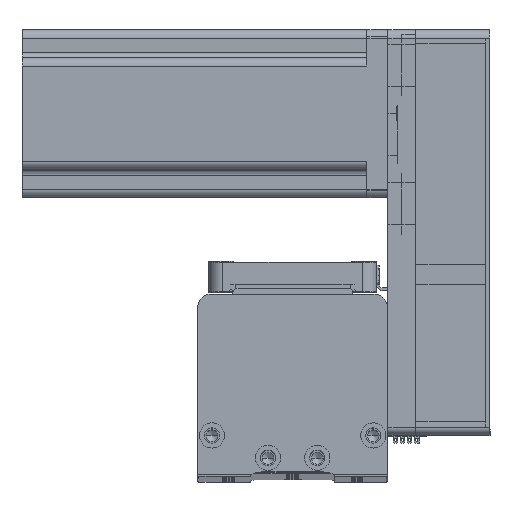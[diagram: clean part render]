
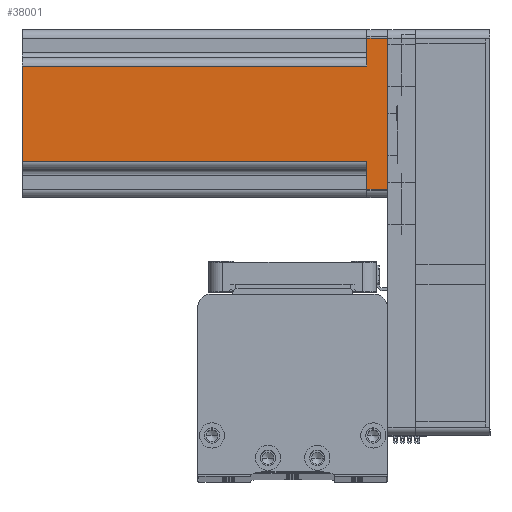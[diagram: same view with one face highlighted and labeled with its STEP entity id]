
A CAD part, top view. The second image highlights one B-rep face of the part: STEP entity #38001.
In plain terms, the highlighted planar face has unit normal (0, 0, 1) as drawn and (0, -1, 0) by its records, which use the part's own axes.
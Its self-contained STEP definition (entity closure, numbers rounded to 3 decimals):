
#73 = EDGE_CURVE ( 'NONE', #35060, #17257, #39954, .T. ) ;
#288 = PLANE ( 'NONE',  #36350 ) ;
#1294 = VERTEX_POINT ( 'NONE', #10641 ) ;
#1499 = EDGE_CURVE ( 'NONE', #16414, #35060, #51083, .T. ) ;
#2190 = ORIENTED_EDGE ( 'NONE', *, *, #51322, .T. ) ;
#2778 = LINE ( 'NONE', #8776, #22547 ) ;
#7180 = ORIENTED_EDGE ( 'NONE', *, *, #30184, .F. ) ;
#7612 = ORIENTED_EDGE ( 'NONE', *, *, #1499, .T. ) ;
#7753 = DIRECTION ( 'NONE',  ( 1., 0., 0. ) ) ;
#8776 = CARTESIAN_POINT ( 'NONE',  ( 30., -30., 0. ) ) ;
#9124 = ORIENTED_EDGE ( 'NONE', *, *, #45427, .F. ) ;
#9936 = CARTESIAN_POINT ( 'NONE',  ( 17., -30., 130.7 ) ) ;
#9953 = CARTESIAN_POINT ( 'NONE',  ( 27., -30., 130.7 ) ) ;
#10641 = CARTESIAN_POINT ( 'NONE',  ( -27., -30., 7.5 ) ) ;
#11873 = LINE ( 'NONE', #22447, #45975 ) ;
#12923 = DIRECTION ( 'NONE',  ( 0., 0., -1. ) ) ;
#14910 = LINE ( 'NONE', #9953, #45308 ) ;
#16394 = DIRECTION ( 'NONE',  ( 0., 1., 0. ) ) ;
#16414 = VERTEX_POINT ( 'NONE', #46296 ) ;
#16944 = LINE ( 'NONE', #50049, #37981 ) ;
#17201 = CARTESIAN_POINT ( 'NONE',  ( -27., -30., 0. ) ) ;
#17257 = VERTEX_POINT ( 'NONE', #9936 ) ;
#18935 = VECTOR ( 'NONE', #27030, 1000. ) ;
#19390 = VECTOR ( 'NONE', #29027, 1000. ) ;
#22279 = DIRECTION ( 'NONE',  ( 0., 0., -1. ) ) ;
#22447 = CARTESIAN_POINT ( 'NONE',  ( 30., -30., 130.7 ) ) ;
#22547 = VECTOR ( 'NONE', #28673, 1000. ) ;
#22803 = CARTESIAN_POINT ( 'NONE',  ( -17., -30., 130.7 ) ) ;
#24340 = LINE ( 'NONE', #32586, #45498 ) ;
#25599 = ORIENTED_EDGE ( 'NONE', *, *, #30309, .T. ) ;
#25655 = VECTOR ( 'NONE', #7753, 1000. ) ;
#26908 = LINE ( 'NONE', #27296, #25655 ) ;
#27030 = DIRECTION ( 'NONE',  ( 0., 0., 1. ) ) ;
#27296 = CARTESIAN_POINT ( 'NONE',  ( -20., -30., 7.5 ) ) ;
#28673 = DIRECTION ( 'NONE',  ( 1., 0., 0. ) ) ;
#29027 = DIRECTION ( 'NONE',  ( -1., 0., 0. ) ) ;
#30184 = EDGE_CURVE ( 'NONE', #1294, #35964, #26908, .T. ) ;
#30309 = EDGE_CURVE ( 'NONE', #31490, #38738, #2778, .T. ) ;
#30513 = EDGE_CURVE ( 'NONE', #32623, #35964, #16944, .T. ) ;
#31490 = VERTEX_POINT ( 'NONE', #17201 ) ;
#32586 = CARTESIAN_POINT ( 'NONE',  ( -27., -30., 130.7 ) ) ;
#32623 = VERTEX_POINT ( 'NONE', #22803 ) ;
#32726 = EDGE_LOOP ( 'NONE', ( #9124, #49348, #7180, #2190, #25599, #44851, #7612, #39556 ) ) ;
#35060 = VERTEX_POINT ( 'NONE', #40837 ) ;
#35964 = VERTEX_POINT ( 'NONE', #46355 ) ;
#36350 = AXIS2_PLACEMENT_3D ( 'NONE', #40075, #16394, #44119 ) ;
#36889 = CARTESIAN_POINT ( 'NONE',  ( 27., -30., 0. ) ) ;
#37632 = DIRECTION ( 'NONE',  ( 0., 0., 1. ) ) ;
#37981 = VECTOR ( 'NONE', #22279, 1000. ) ;
#38001 = ADVANCED_FACE ( 'NONE', ( #38412 ), #288, .F. ) ;
#38412 = FACE_OUTER_BOUND ( 'NONE', #32726, .T. ) ;
#38738 = VERTEX_POINT ( 'NONE', #36889 ) ;
#39556 = ORIENTED_EDGE ( 'NONE', *, *, #73, .T. ) ;
#39954 = LINE ( 'NONE', #50862, #18935 ) ;
#40075 = CARTESIAN_POINT ( 'NONE',  ( 30., -30., 130.7 ) ) ;
#40837 = CARTESIAN_POINT ( 'NONE',  ( 17., -30., 7.5 ) ) ;
#40994 = CARTESIAN_POINT ( 'NONE',  ( 20., -30., 7.5 ) ) ;
#42480 = EDGE_CURVE ( 'NONE', #38738, #16414, #14910, .T. ) ;
#44119 = DIRECTION ( 'NONE',  ( -1., 0., 0. ) ) ;
#44851 = ORIENTED_EDGE ( 'NONE', *, *, #42480, .T. ) ;
#45308 = VECTOR ( 'NONE', #37632, 1000. ) ;
#45427 = EDGE_CURVE ( 'NONE', #32623, #17257, #11873, .T. ) ;
#45498 = VECTOR ( 'NONE', #12923, 1000. ) ;
#45975 = VECTOR ( 'NONE', #50254, 1000. ) ;
#46296 = CARTESIAN_POINT ( 'NONE',  ( 27., -30., 7.5 ) ) ;
#46355 = CARTESIAN_POINT ( 'NONE',  ( -17., -30., 7.5 ) ) ;
#49348 = ORIENTED_EDGE ( 'NONE', *, *, #30513, .T. ) ;
#50049 = CARTESIAN_POINT ( 'NONE',  ( -17., -30., 130.7 ) ) ;
#50254 = DIRECTION ( 'NONE',  ( 1., 0., 0. ) ) ;
#50862 = CARTESIAN_POINT ( 'NONE',  ( 17., -30., 130.7 ) ) ;
#51083 = LINE ( 'NONE', #40994, #19390 ) ;
#51322 = EDGE_CURVE ( 'NONE', #1294, #31490, #24340, .T. ) ;
